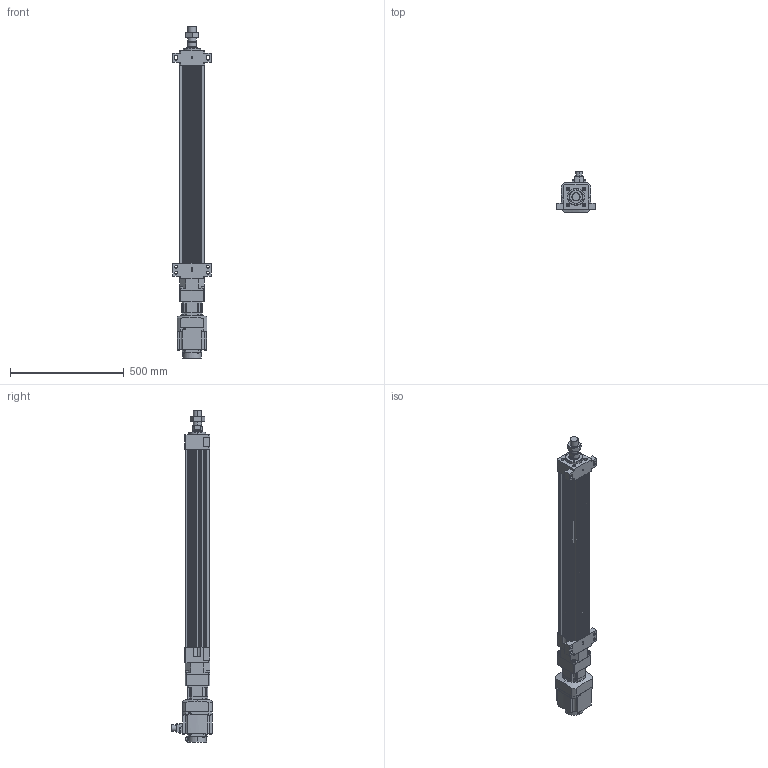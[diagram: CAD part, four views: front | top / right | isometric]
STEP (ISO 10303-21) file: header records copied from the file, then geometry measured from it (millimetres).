
FILE_DESCRIPTION (( 'STEP AP203' ), '1' );
FILE_NAME ('HES110NS(HS)-S700-W010G00-M-FFB.STEP', '2023-01-27T06:07:13', ( 'tms' ), ( '' ), 'SwSTEP 2.0', 'SolidWorks 2013', '' );
FILE_SCHEMA (( 'CONFIG_CONTROL_DESIGN' ));
Length unit declared in the file: millimetre
Products named in the file (8): P0401301004; HES110-S700-G090-FFB; M36X1.5P; HES110NS(HS)-S700-W010G00-M-FFB; AB0901; HG-SR102; HES110 ROD M ST700; AB090-003[HG-SR102B]
Assembly tree (7 placements, depth 3):
  HES110NS(HS)-S700-W010G00-M-FFB
    HES110-S700-G090-FFB
    HES110 ROD M ST700
    M36X1.5P
    AB090-003[HG-SR102B]
      AB0901
      P0401301004
    HG-SR102
Bounding box: 170 x 177.49 x 1458.5 mm (x, y, z)
Volume: 9416632.3 mm3; surface area: 1326173.2 mm2
Topology: 4 solids, 15 shells, 1189 faces, 3015 edges, 1964 vertices
Faces by surface type: plane 570, cylinder 529, cone 78, bspline 8, torus 4
Entity records: 37852 total; most frequent: CARTESIAN_POINT 7358, DIRECTION 6498, ORIENTED_EDGE 5982, EDGE_CURVE 3001, AXIS2_PLACEMENT_3D 2375, VERTEX_POINT 1964, LINE 1748, VECTOR 1748
